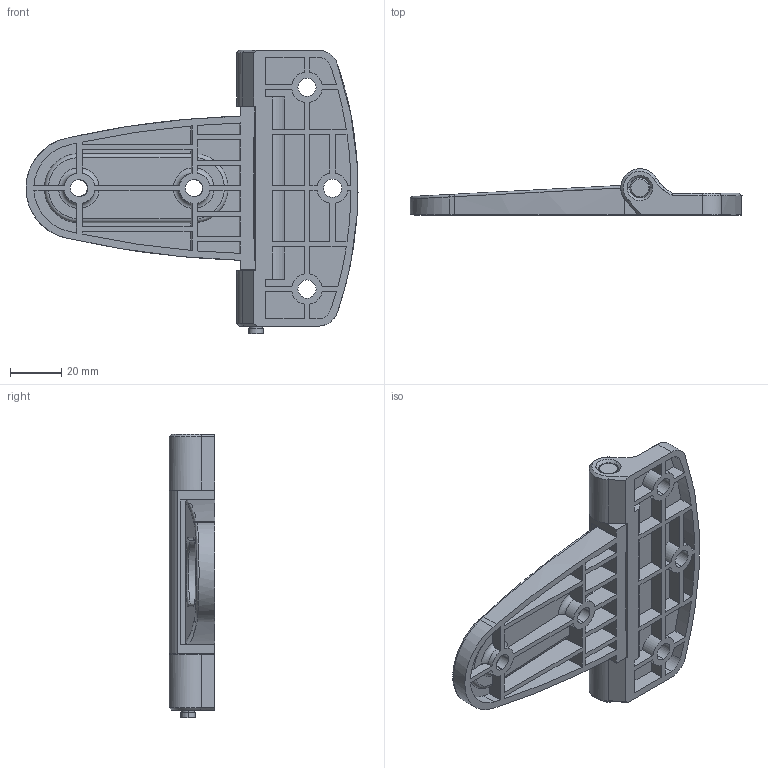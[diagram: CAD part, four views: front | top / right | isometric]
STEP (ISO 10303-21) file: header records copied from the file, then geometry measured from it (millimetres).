
FILE_DESCRIPTION (( 'STEP AP203' ), '1' );
FILE_NAME ('XG02-010.STEP', '2023-12-06T09:22:56', ( '' ), ( '' ), 'SwSTEP 2.0', 'SolidWorks 2020', '' );
FILE_SCHEMA (( 'CONFIG_CONTROL_DESIGN' ));
Length unit declared in the file: millimetre
Products named in the file (4): 种赽; HL052-B; HL052-A; XG02-010
Assembly tree (3 placements, depth 2):
  XG02-010
    HL052-B
    HL052-A
    种赽
Bounding box: 129.97 x 18 x 111 mm (x, y, z)
Volume: 53599.1 mm3; surface area: 39755.6 mm2
Topology: 3 solids, 3 shells, 312 faces, 784 edges, 507 vertices
Faces by surface type: plane 157, cylinder 94, bspline 31, torus 15, cone 14, sphere 1
Entity records: 12432 total; most frequent: CARTESIAN_POINT 4759, ORIENTED_EDGE 1568, DIRECTION 1406, EDGE_CURVE 784, VERTEX_POINT 507, VECTOR 470, LINE 470, AXIS2_PLACEMENT_3D 468
